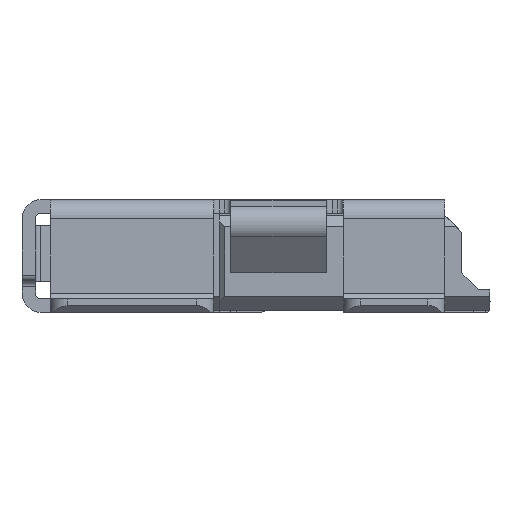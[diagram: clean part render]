
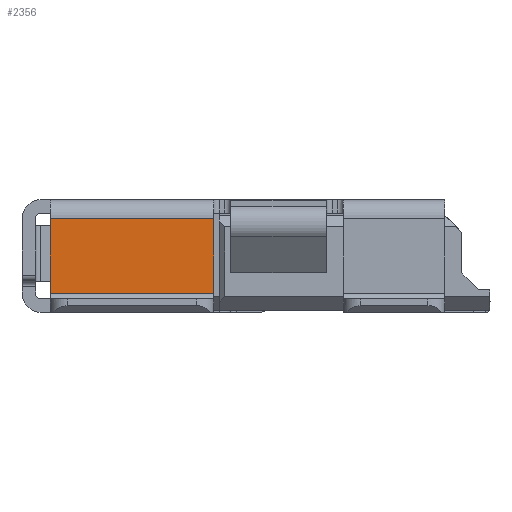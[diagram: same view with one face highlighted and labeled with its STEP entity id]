
A CAD part, left-side view. The second image highlights one B-rep face of the part: STEP entity #2356.
In plain terms, the highlighted planar face has unit normal (-1, 0, 0).
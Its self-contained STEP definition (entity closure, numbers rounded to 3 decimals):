
#132 = DIRECTION ( 'NONE',  ( 0., 0., 1. ) ) ;
#146 = DIRECTION ( 'NONE',  ( 0., 0., 1. ) ) ;
#777 = LINE ( 'NONE', #17422, #21898 ) ;
#2356 = ADVANCED_FACE ( 'NONE', ( #7737 ), #15140, .T. ) ;
#2420 = VERTEX_POINT ( 'NONE', #9668 ) ;
#2707 = VERTEX_POINT ( 'NONE', #9925 ) ;
#3288 = EDGE_CURVE ( 'NONE', #10642, #16785, #21583, .T. ) ;
#3941 = CARTESIAN_POINT ( 'NONE',  ( -4.215, -2.65, -0.83 ) ) ;
#4008 = DIRECTION ( 'NONE',  ( -1., 0., 0. ) ) ;
#7482 = EDGE_CURVE ( 'NONE', #2420, #16785, #19291, .T. ) ;
#7737 = FACE_OUTER_BOUND ( 'NONE', #19773, .T. ) ;
#9404 = VECTOR ( 'NONE', #146, 1000. ) ;
#9668 = CARTESIAN_POINT ( 'NONE',  ( -4.215, -1.2, -0.17 ) ) ;
#9925 = CARTESIAN_POINT ( 'NONE',  ( -4.215, -1.2, -0.83 ) ) ;
#10642 = VERTEX_POINT ( 'NONE', #15505 ) ;
#11208 = EDGE_CURVE ( 'NONE', #2707, #10642, #12367, .T. ) ;
#11402 = ORIENTED_EDGE ( 'NONE', *, *, #7482, .F. ) ;
#12107 = AXIS2_PLACEMENT_3D ( 'NONE', #16756, #4008, #132 ) ;
#12218 = EDGE_CURVE ( 'NONE', #2707, #2420, #777, .T. ) ;
#12367 = LINE ( 'NONE', #18087, #23919 ) ;
#13320 = ORIENTED_EDGE ( 'NONE', *, *, #3288, .T. ) ;
#13798 = VECTOR ( 'NONE', #19384, 1000. ) ;
#15140 = PLANE ( 'NONE',  #12107 ) ;
#15338 = CARTESIAN_POINT ( 'NONE',  ( -4.215, -2.65, -0.17 ) ) ;
#15505 = CARTESIAN_POINT ( 'NONE',  ( -4.215, -2.65, -0.83 ) ) ;
#15538 = DIRECTION ( 'NONE',  ( 0., 0., 1. ) ) ;
#16756 = CARTESIAN_POINT ( 'NONE',  ( -4.215, -2.65, -0.83 ) ) ;
#16785 = VERTEX_POINT ( 'NONE', #15338 ) ;
#17422 = CARTESIAN_POINT ( 'NONE',  ( -4.215, -1.2, -1. ) ) ;
#17516 = DIRECTION ( 'NONE',  ( 0., -1., 0. ) ) ;
#17690 = CARTESIAN_POINT ( 'NONE',  ( -4.215, -1.2, -0.17 ) ) ;
#18087 = CARTESIAN_POINT ( 'NONE',  ( -4.215, -2.65, -0.83 ) ) ;
#19291 = LINE ( 'NONE', #17690, #13798 ) ;
#19384 = DIRECTION ( 'NONE',  ( 0., -1., 0. ) ) ;
#19538 = ORIENTED_EDGE ( 'NONE', *, *, #11208, .T. ) ;
#19773 = EDGE_LOOP ( 'NONE', ( #23004, #19538, #13320, #11402 ) ) ;
#21583 = LINE ( 'NONE', #3941, #9404 ) ;
#21898 = VECTOR ( 'NONE', #15538, 1000. ) ;
#23004 = ORIENTED_EDGE ( 'NONE', *, *, #12218, .F. ) ;
#23919 = VECTOR ( 'NONE', #17516, 1000. ) ;
